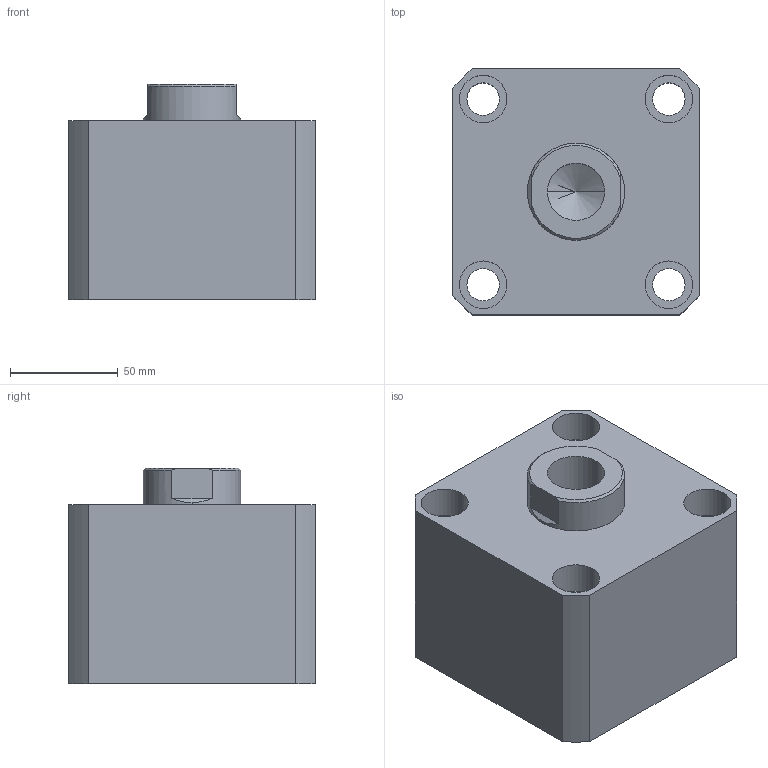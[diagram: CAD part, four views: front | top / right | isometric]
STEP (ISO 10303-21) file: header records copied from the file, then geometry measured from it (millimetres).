
FILE_DESCRIPTION (( 'STEP AP203' ), '1' );
FILE_NAME ('HTB-SDMB80-5N.STEP', '2019-10-09T05:56:12', ( '微软用户' ), ( '微软中国' ), 'SwSTEP 2.0', 'SolidWorks 2012', '' );
FILE_SCHEMA (( 'CONFIG_CONTROL_DESIGN' ));
Length unit declared in the file: millimetre
Products named in the file (3): HTB-SDMB80-5掛极; HTB-SDMB80-5N活塞杆; HTB-SDMB80-5N
Assembly tree (2 placements, depth 2):
  HTB-SDMB80-5N
    HTB-SDMB80-5掛极
    HTB-SDMB80-5N活塞杆
Bounding box: 114 x 114 x 100 mm (x, y, z)
Volume: 968211.4 mm3; surface area: 128180.2 mm2
Topology: 2 solids, 2 shells, 137 faces, 331 edges, 217 vertices
Faces by surface type: plane 65, cylinder 46, bspline 16, torus 6, cone 4
Entity records: 5070 total; most frequent: CARTESIAN_POINT 1576, ORIENTED_EDGE 658, DIRECTION 647, EDGE_CURVE 329, AXIS2_PLACEMENT_3D 232, VERTEX_POINT 217, VECTOR 183, LINE 183
